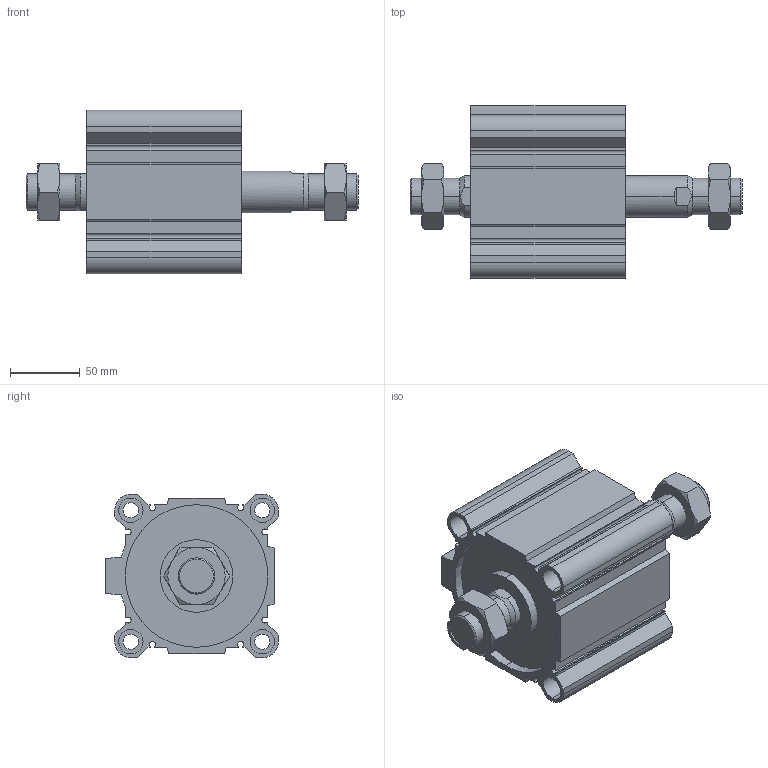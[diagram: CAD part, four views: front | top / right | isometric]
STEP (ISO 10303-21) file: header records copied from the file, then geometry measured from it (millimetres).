
FILE_DESCRIPTION (( 'STEP AP203' ), '1' );
FILE_NAME ('CCMB100-40M-P.STEP', '2020-08-10T11:59:41', ( '' ), ( '' ), 'SwSTEP 2.0', 'SolidWorks 2019', '' );
FILE_SCHEMA (( 'CONFIG_CONTROL_DESIGN' ));
Length unit declared in the file: millimetre
Products named in the file (1): CCMB100-40M-P
Bounding box: 237.5 x 123.5 x 117 mm (x, y, z)
Volume: 1018273.8 mm3; surface area: 213948.8 mm2
Topology: 4 solids, 4 shells, 230 faces, 568 edges, 364 vertices
Faces by surface type: plane 106, cylinder 80, cone 44
Entity records: 7879 total; most frequent: CARTESIAN_POINT 2279, DIRECTION 1166, ORIENTED_EDGE 1136, EDGE_CURVE 568, AXIS2_PLACEMENT_3D 431, VERTEX_POINT 364, VECTOR 304, LINE 304
